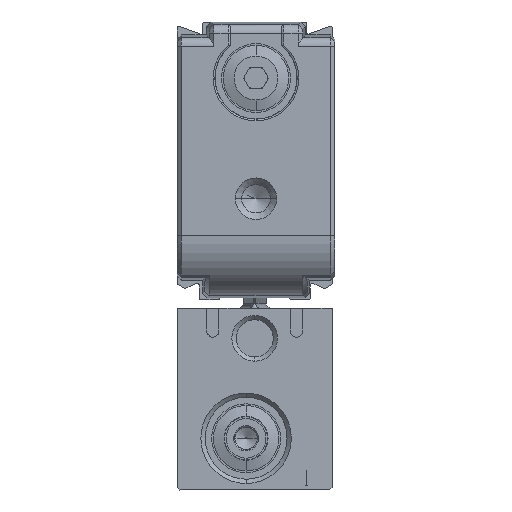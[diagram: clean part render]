
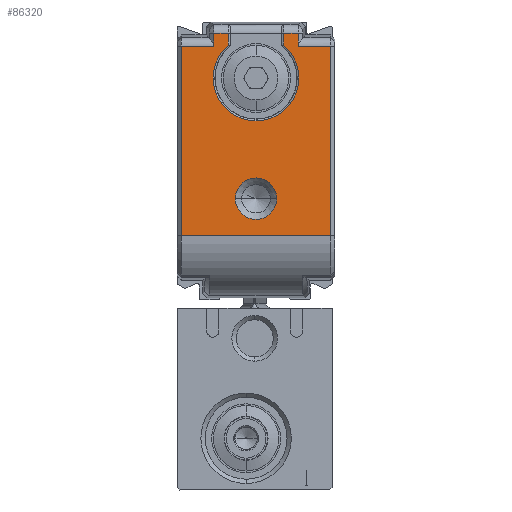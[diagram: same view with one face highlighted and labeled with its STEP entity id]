
A CAD part, left-side view. The second image highlights one B-rep face of the part: STEP entity #86320.
In plain terms, the highlighted planar face has unit normal (-1, 0, 0) as drawn and (0, 0, -1) by its records, which use the part's own axes.
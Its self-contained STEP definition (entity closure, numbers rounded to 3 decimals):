
#68980=CARTESIAN_POINT('',(31.077,22.24,-511.));
#68990=VERTEX_POINT('',#68980);
#69240=CARTESIAN_POINT('',(31.077,35.9,-511.));
#69250=DIRECTION('',(0.,-1.,0.));
#69260=VECTOR('',#69250,1.);
#69270=LINE('',#69240,#69260);
#69280=CARTESIAN_POINT('',(31.077,23.95,-511.));
#69290=VERTEX_POINT('',#69280);
#69300=EDGE_CURVE('',#69290,#68990,#69270,.T.);
#73120=CARTESIAN_POINT('',(7.619,35.8,-511.));
#73130=VERTEX_POINT('',#73120);
#73500=CARTESIAN_POINT('',(29.577,35.8,-511.));
#73510=VERTEX_POINT('',#73500);
#73630=CARTESIAN_POINT('',(18.598,35.8,-511.));
#73640=DIRECTION('',(1.,0.,0.));
#73650=VECTOR('',#73640,1.);
#73660=LINE('',#73630,#73650);
#73670=EDGE_CURVE('',#73130,#73510,#73660,.T.);
#80970=CARTESIAN_POINT('',(29.577,22.24,-511.));
#80980=VERTEX_POINT('',#80970);
#81010=CARTESIAN_POINT('',(29.577,35.9,-511.));
#81020=DIRECTION('',(0.,1.,0.));
#81030=VECTOR('',#81020,1.);
#81040=LINE('',#81010,#81030);
#81050=CARTESIAN_POINT('',(29.577,18.5,-511.));
#81060=VERTEX_POINT('',#81050);
#81070=EDGE_CURVE('',#81060,#80980,#81040,.T.);
#81420=CARTESIAN_POINT('',(29.077,22.24,-511.));
#81430=CARTESIAN_POINT('',(29.494,22.24,-511.));
#81440=CARTESIAN_POINT('',(29.91,22.24,-511.));
#81450=CARTESIAN_POINT('',(30.577,22.24,-511.));
#81460=CARTESIAN_POINT('',(30.827,22.24,-511.));
#81470=CARTESIAN_POINT('',(31.077,22.24,-511.));
#81480=B_SPLINE_CURVE_WITH_KNOTS('',3,(#81420,#81430,#81440,#81450,
#81460,#81470),.UNSPECIFIED.,.F.,.F.,(4,2,4),(38.213,
39.463,40.213),.UNSPECIFIED.);
#81490=EDGE_CURVE('',#80980,#68990,#81480,.T.);
#85150=CARTESIAN_POINT('',(7.619,18.5,
-511.));
#85160=VERTEX_POINT('',#85150);
#85190=CARTESIAN_POINT('',(7.619,35.9,-511.));
#85200=DIRECTION('',(0.,-1.,0.));
#85210=VECTOR('',#85200,1.);
#85220=LINE('',#85190,#85210);
#85230=EDGE_CURVE('',#73130,#85160,#85220,.T.);
#85530=CARTESIAN_POINT('',(16.65,27.15,-511.));
#85540=DIRECTION('',(0.,0.,1.));
#85550=DIRECTION('',(0.,1.,0.));
#85560=AXIS2_PLACEMENT_3D('',#85530,#85540,#85550);
#85570=PLANE('',#85560);
#85580=CARTESIAN_POINT('',(11.9,27.15,-511.));
#85590=DIRECTION('',(0.,0.,1.));
#85600=DIRECTION('',(0.,-1.,0.));
#85610=AXIS2_PLACEMENT_3D('',#85580,#85590,#85600);
#85620=CIRCLE('',#85610,2.4);
#85630=CARTESIAN_POINT('',(11.9,29.55,-511.));
#85640=VERTEX_POINT('',#85630);
#85650=CARTESIAN_POINT('',(11.9,24.75,-511.));
#85660=VERTEX_POINT('',#85650);
#85670=EDGE_CURVE('',#85640,#85660,#85620,.T.);
#85680=ORIENTED_EDGE('',*,*,#85670,.T.);
#85690=EDGE_CURVE('',#85660,#85640,#85620,.T.);
#85700=ORIENTED_EDGE('',*,*,#85690,.T.);
#85710=EDGE_LOOP('',(#85700,#85680));
#85720=FACE_BOUND('',#85710,.T.);
#85730=ORIENTED_EDGE('',*,*,#81070,.F.);
#85740=ORIENTED_EDGE('',*,*,#81490,.F.);
#85750=ORIENTED_EDGE('',*,*,#69300,.T.);
#85760=CARTESIAN_POINT('',(0.15,23.95,-511.));
#85770=DIRECTION('',(-1.,0.,0.));
#85780=VECTOR('',#85770,1.);
#85790=LINE('',#85760,#85780);
#85800=CARTESIAN_POINT('',(29.709,23.95,-511.));
#85810=VERTEX_POINT('',#85800);
#85820=EDGE_CURVE('',#69290,#85810,#85790,.T.);
#85830=ORIENTED_EDGE('',*,*,#85820,.F.);
#85840=CARTESIAN_POINT('',(25.9,27.15,-511.));
#85850=DIRECTION('',(0.,0.,-1.));
#85860=DIRECTION('',(0.,1.,0.));
#85870=AXIS2_PLACEMENT_3D('',#85840,#85850,#85860);
#85880=CIRCLE('',#85870,4.974);
#85890=CARTESIAN_POINT('',(29.709,30.35,-511.));
#85900=VERTEX_POINT('',#85890);
#85910=EDGE_CURVE('',#85810,#85900,#85880,.T.);
#85920=ORIENTED_EDGE('',*,*,#85910,.F.);
#85930=CARTESIAN_POINT('',(0.15,30.35,-511.));
#85940=DIRECTION('',(1.,0.,0.));
#85950=VECTOR('',#85940,1.);
#85960=LINE('',#85930,#85950);
#85970=CARTESIAN_POINT('',(31.077,30.35,-511.));
#85980=VERTEX_POINT('',#85970);
#85990=EDGE_CURVE('',#85900,#85980,#85960,.T.);
#86000=ORIENTED_EDGE('',*,*,#85990,.F.);
#86010=CARTESIAN_POINT('',(31.077,32.06,-511.));
#86020=VERTEX_POINT('',#86010);
#86030=EDGE_CURVE('',#86020,#85980,#69270,.T.);
#86040=ORIENTED_EDGE('',*,*,#86030,.T.);
#86050=CARTESIAN_POINT('',(29.077,32.06,-511.));
#86060=CARTESIAN_POINT('',(29.494,32.06,-511.));
#86070=CARTESIAN_POINT('',(29.91,32.06,-511.));
#86080=CARTESIAN_POINT('',(30.577,32.06,-511.));
#86090=CARTESIAN_POINT('',(30.827,32.06,-511.));
#86100=CARTESIAN_POINT('',(31.077,32.06,-511.));
#86110=B_SPLINE_CURVE_WITH_KNOTS('',3,(#86050,#86060,#86070,#86080,
#86090,#86100),.UNSPECIFIED.,.F.,.F.,(4,2,4),(38.213,
39.463,40.213),.UNSPECIFIED.);
#86120=CARTESIAN_POINT('',(29.577,32.06,-511.));
#86130=VERTEX_POINT('',#86120);
#86140=EDGE_CURVE('',#86130,#86020,#86110,.T.);
#86150=ORIENTED_EDGE('',*,*,#86140,.T.);
#86160=CARTESIAN_POINT('',(29.577,35.9,-511.));
#86170=DIRECTION('',(0.,1.,0.));
#86180=VECTOR('',#86170,1.);
#86190=LINE('',#86160,#86180);
#86200=EDGE_CURVE('',#86130,#73510,#86190,.T.);
#86210=ORIENTED_EDGE('',*,*,#86200,.F.);
#86220=ORIENTED_EDGE('',*,*,#73670,.T.);
#86230=ORIENTED_EDGE('',*,*,#85230,.F.);
#86240=CARTESIAN_POINT('',(18.598,18.5,-511.));
#86250=DIRECTION('',(1.,0.,0.));
#86260=VECTOR('',#86250,1.);
#86270=LINE('',#86240,#86260);
#86280=EDGE_CURVE('',#85160,#81060,#86270,.T.);
#86290=ORIENTED_EDGE('',*,*,#86280,.F.);
#86300=EDGE_LOOP('',(#86290,#86230,#86220,#86210,#86150,#86040,#86000,
#85920,#85830,#85750,#85740,#85730));
#86310=FACE_OUTER_BOUND('',#86300,.T.);
#86320=ADVANCED_FACE('',(#85720,#86310),#85570,.F.);
